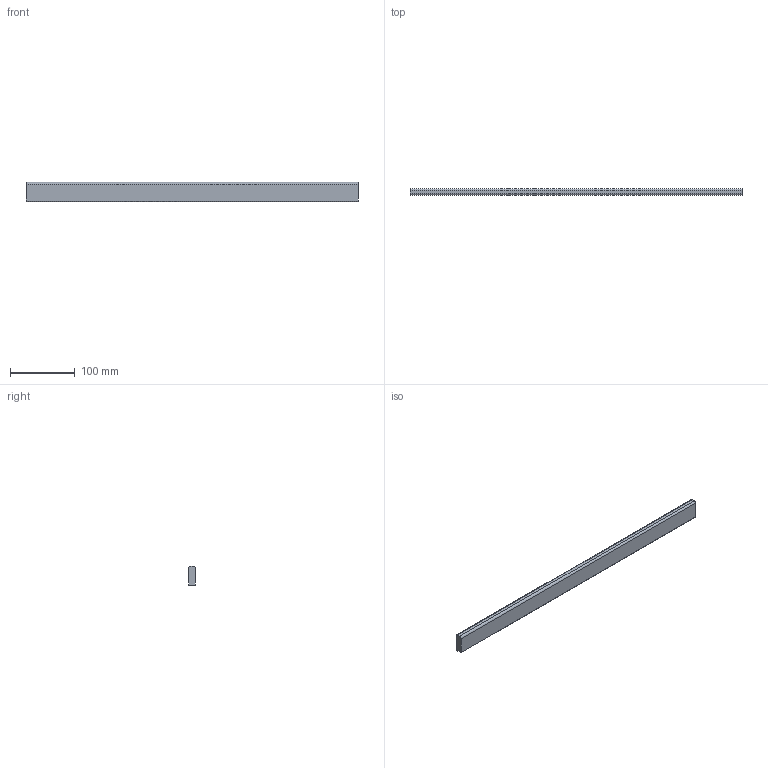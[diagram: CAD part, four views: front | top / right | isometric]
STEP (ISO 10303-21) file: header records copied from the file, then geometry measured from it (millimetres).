
FILE_DESCRIPTION (( 'STEP AP214' ), '1' );
FILE_NAME ('_Querreling_KAB-600_KS-16.step', '2010-08-26T14:59:01', ( 'grass' ), ( '' ), 'SwSTEP 2.0', 'SolidWorks 2009', '' );
FILE_SCHEMA (( 'AUTOMOTIVE_DESIGN' ));
Length unit declared in the file: millimetre
Products named in the file (1): _Querreling_KAB-600_KS-16
Bounding box: 512.5 x 10.5 x 30 mm (x, y, z)
Volume: 159237.8 mm3; surface area: 40374.2 mm2
Topology: 1 solids, 1 shells, 10 faces, 24 edges, 16 vertices
Faces by surface type: plane 6, cylinder 4
Entity records: 330 total; most frequent: DIRECTION 54, CARTESIAN_POINT 51, ORIENTED_EDGE 48, EDGE_CURVE 24, AXIS2_PLACEMENT_3D 19, VECTOR 16, LINE 16, VERTEX_POINT 16
